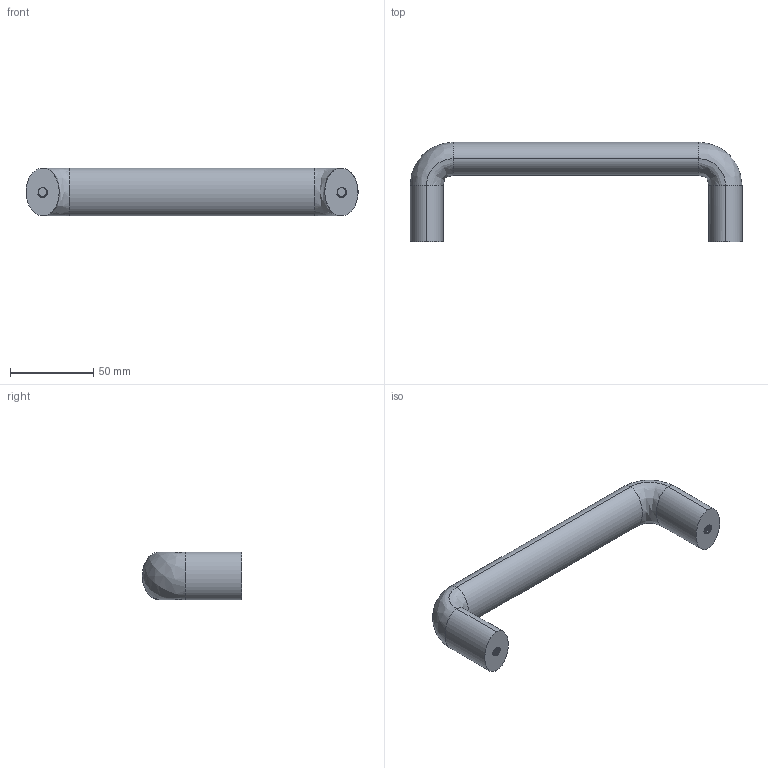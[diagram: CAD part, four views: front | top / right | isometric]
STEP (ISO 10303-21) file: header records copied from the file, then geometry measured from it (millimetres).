
FILE_DESCRIPTION(/* description */ (''),/* implementation_level */ '2;1');
FILE_NAME(/* name */ 'AP-178-1-3D',/* time_stamp */ '2023-05-05T06:59:02+08:00',/* author */ (''),/* organization */ (''),/* preprocessor_version */ 'ST-DEVELOPER v16.5',/* originating_system */ 'Rhino 7.28',/* authorisation */ '');
FILE_SCHEMA (('CONFIG_CONTROL_DESIGN'));
Length unit declared in the file: millimetre
Products named in the file (1): Document
Bounding box: 199.94 x 59.87 x 28.6 mm (x, y, z)
Volume: 118829.8 mm3; surface area: 22125.8 mm2
Topology: 1 solids, 1 shells, 74 faces, 198 edges, 128 vertices
Faces by surface type: cylinder 52, bspline 16, plane 6
Entity records: 6090 total; most frequent: CARTESIAN_POINT 4810, ORIENTED_EDGE 396, EDGE_CURVE 198, VERTEX_POINT 128, EDGE_LOOP 76, ADVANCED_FACE 74, FACE_OUTER_BOUND 74, B_SPLINE_CURVE_WITH_KNOTS 66
